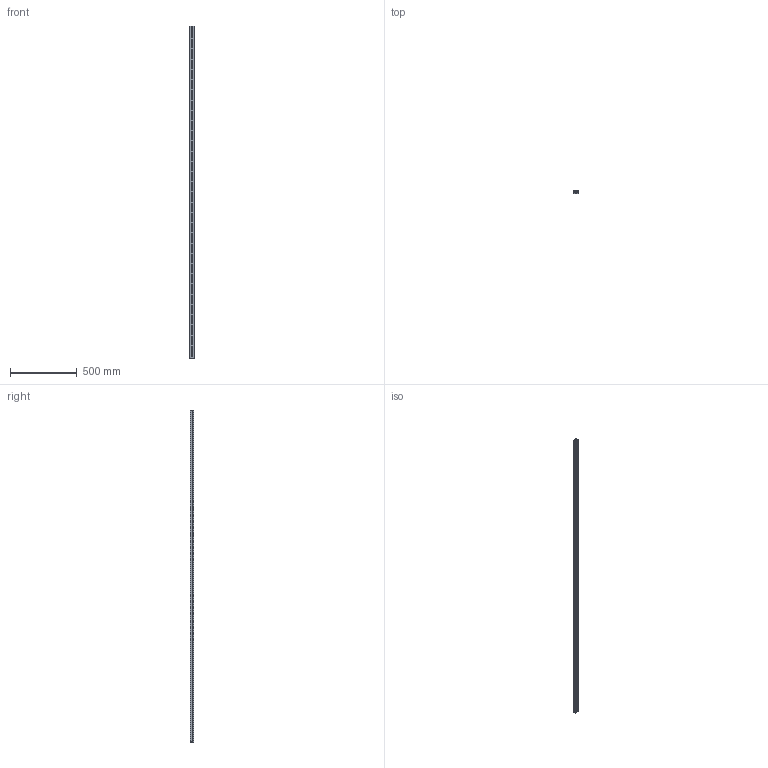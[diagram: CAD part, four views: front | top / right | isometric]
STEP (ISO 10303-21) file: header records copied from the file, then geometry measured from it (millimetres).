
FILE_DESCRIPTION (( 'STEP AP203' ), '1' );
FILE_NAME ('Linearführung_-_LFS-12-10 - L=2496.step', '2011-07-19T09:15:02', ( 'HI' ), ( '' ), 'SwSTEP 2.0', 'SolidWorks 2010', '' );
FILE_SCHEMA (( 'CONFIG_CONTROL_DESIGN' ));
Length unit declared in the file: millimetre
Products named in the file (1): Linearführung_-_LFS-12-10 - L=2496
Bounding box: 36 x 24.5 x 2496 mm (x, y, z)
Volume: 1607800.7 mm3; surface area: 616601.5 mm2
Topology: 1 solids, 1 shells, 1112 faces, 2942 edges, 1926 vertices
Faces by surface type: cylinder 525, plane 387, cone 200
Entity records: 46421 total; most frequent: CARTESIAN_POINT 18509, ORIENTED_EDGE 5884, DIRECTION 5630, EDGE_CURVE 2942, AXIS2_PLACEMENT_3D 2175, VERTEX_POINT 1926, EDGE_LOOP 1514, LINE 1280
